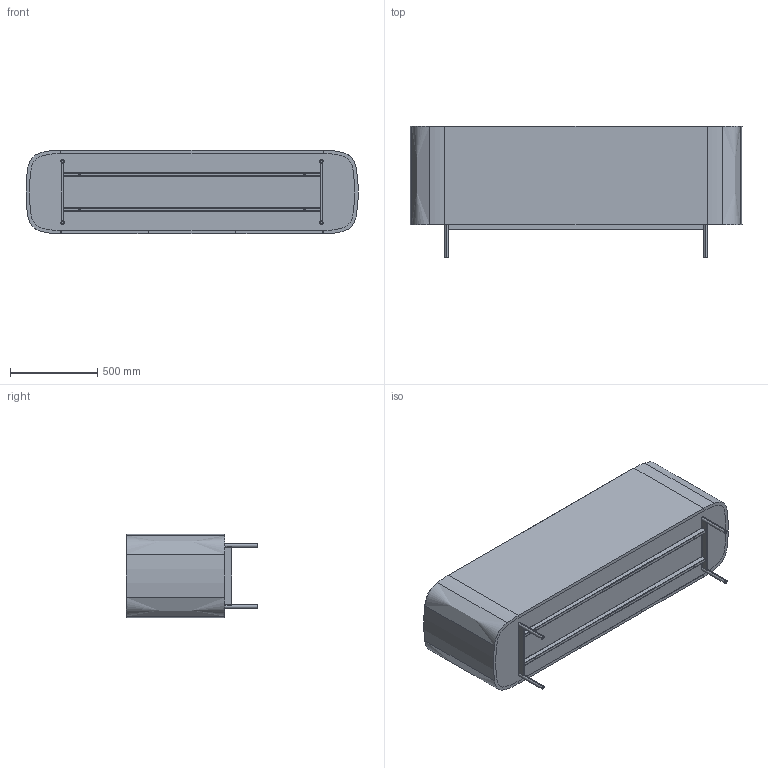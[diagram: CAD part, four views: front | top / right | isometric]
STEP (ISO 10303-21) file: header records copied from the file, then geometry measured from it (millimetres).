
FILE_DESCRIPTION (( 'STEP AP203' ), '1' );
FILE_NAME ('SY2WC_Syra_190x48x75.STEP', '2024-08-06T08:16:14', ( '' ), ( '' ), 'SwSTEP 2.0', 'SolidWorks 2022', '' );
FILE_SCHEMA (( 'CONFIG_CONTROL_DESIGN' ));
Length unit declared in the file: millimetre
Products named in the file (6): K190X48-01-TOP X MADIA 190x48 CERAMICA; SY000000GMB-00-BASE PER MADIA SYRA_SY000000GMB19 gambe per 3 ante<A macchina>; RIPIANO IN CRISTALLO_RIPIANO LATERALE; MAD000000xx-00-MADIE SYRA_SY000003_SY000004-00-SYRA STRUTTURA E ANTE 190x48x75h; SY2WC_Syra_190x48x75; RIPIANO IN CRISTALLO_RIPIANO CENTRALE
Assembly tree (7 placements, depth 2):
  SY2WC_Syra_190x48x75
    MAD000000xx-00-MADIE SYRA_SY000003_SY000004-00-SYRA STRUTTURA E ANTE 190x48x75h
    SY000000GMB-00-BASE PER MADIA SYRA_SY000000GMB19 gambe per 3 ante<A macchina>
    K190X48-01-TOP X MADIA 190x48 CERAMICA  x2
    RIPIANO IN CRISTALLO_RIPIANO CENTRALE
    RIPIANO IN CRISTALLO_RIPIANO LATERALE  x2
Bounding box: 1898.03 x 753.5 x 480 mm (x, y, z)
Volume: 103678235.2 mm3; surface area: 15133632.2 mm2
Topology: 23 solids, 23 shells, 449 faces, 1087 edges, 678 vertices
Faces by surface type: cylinder 178, plane 133, cone 118, bspline 20
Entity records: 13122 total; most frequent: CARTESIAN_POINT 4284, DIRECTION 1720, ORIENTED_EDGE 1676, EDGE_CURVE 838, AXIS2_PLACEMENT_3D 650, VERTEX_POINT 536, LINE 420, VECTOR 420
